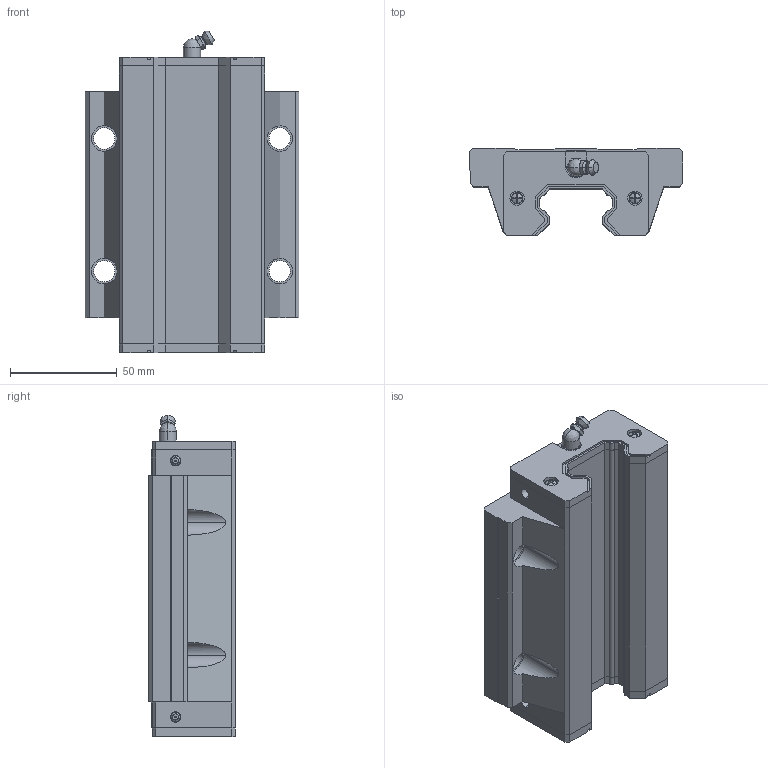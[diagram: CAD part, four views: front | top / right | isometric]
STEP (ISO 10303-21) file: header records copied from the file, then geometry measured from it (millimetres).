
FILE_DESCRIPTION (( 'STEP AP203' ), '1' );
FILE_NAME ('HGW35HC.STEP', '2021-10-25T04:44:33', ( '微软用户' ), ( '微软中国' ), 'SwSTEP 2.0', 'SolidWorks 2018', '' );
FILE_SCHEMA (( 'CONFIG_CONTROL_DESIGN' ));
Length unit declared in the file: millimetre
Products named in the file (1): HGW35HC
Bounding box: 100 x 40.6 x 150.2 mm (x, y, z)
Volume: 353174.9 mm3; surface area: 58364.1 mm2
Topology: 3 solids, 3 shells, 381 faces, 1010 edges, 659 vertices
Faces by surface type: plane 256, cylinder 76, bspline 26, cone 23
Entity records: 12662 total; most frequent: CARTESIAN_POINT 3265, ORIENTED_EDGE 2012, DIRECTION 1823, EDGE_CURVE 1006, LINE 681, VECTOR 681, VERTEX_POINT 659, AXIS2_PLACEMENT_3D 571
